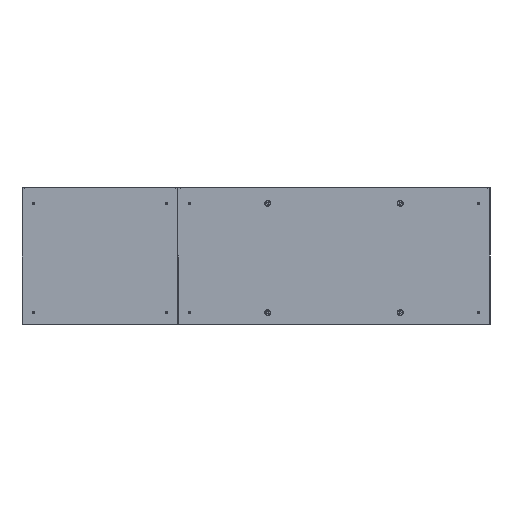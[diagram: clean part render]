
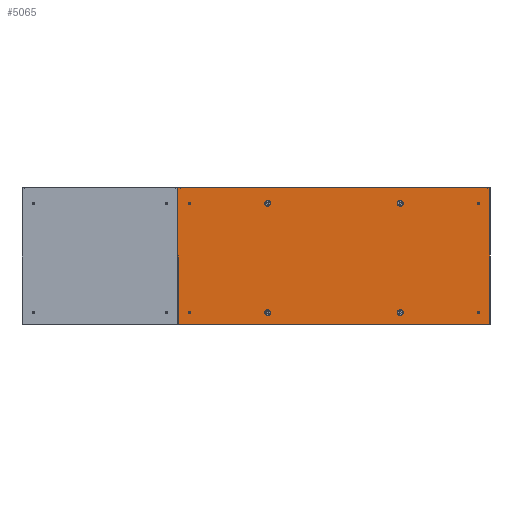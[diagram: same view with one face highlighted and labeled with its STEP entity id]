
A CAD part, front view. The second image highlights one B-rep face of the part: STEP entity #5065.
In plain terms, the highlighted planar face has unit normal (0, -1, 0).
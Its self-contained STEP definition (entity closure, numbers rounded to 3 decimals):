
#31 = CARTESIAN_POINT ( 'NONE',  ( -370., 0., -148. ) ) ;
#64 = EDGE_CURVE ( 'NONE', #15585, #7655, #1497, .T. ) ;
#88 = ORIENTED_EDGE ( 'NONE', *, *, #7454, .F. ) ;
#125 = AXIS2_PLACEMENT_3D ( 'NONE', #11148, #2801, #7666 ) ;
#228 = CIRCLE ( 'NONE', #5568, 3. ) ;
#260 = DIRECTION ( 'NONE',  ( 0., -1., 0. ) ) ;
#295 = DIRECTION ( 'NONE',  ( 0., -1., 0. ) ) ;
#332 = CARTESIAN_POINT ( 'NONE',  ( -370., 0., 138. ) ) ;
#384 = VERTEX_POINT ( 'NONE', #5859 ) ;
#570 = FACE_BOUND ( 'NONE', #3971, .T. ) ;
#678 = VERTEX_POINT ( 'NONE', #1174 ) ;
#724 = FACE_BOUND ( 'NONE', #2051, .T. ) ;
#786 = VERTEX_POINT ( 'NONE', #11100 ) ;
#795 = VERTEX_POINT ( 'NONE', #3775 ) ;
#808 = FACE_BOUND ( 'NONE', #13930, .T. ) ;
#848 = DIRECTION ( 'NONE',  ( 0., 0., -1. ) ) ;
#1174 = CARTESIAN_POINT ( 'NONE',  ( -370., 0., -142. ) ) ;
#1365 = VERTEX_POINT ( 'NONE', #31 ) ;
#1497 = CIRCLE ( 'NONE', #6301, 3. ) ;
#1554 = VECTOR ( 'NONE', #8459, 1000. ) ;
#1751 = CARTESIAN_POINT ( 'NONE',  ( -400., 0., -175. ) ) ;
#1825 = EDGE_CURVE ( 'NONE', #11263, #786, #11051, .T. ) ;
#1891 = DIRECTION ( 'NONE',  ( 0., -1., 0. ) ) ;
#1970 = EDGE_CURVE ( 'NONE', #6293, #9609, #14865, .T. ) ;
#1978 = LINE ( 'NONE', #3464, #13238 ) ;
#1991 = ORIENTED_EDGE ( 'NONE', *, *, #1825, .F. ) ;
#2051 = EDGE_LOOP ( 'NONE', ( #1991, #88 ) ) ;
#2237 = DIRECTION ( 'NONE',  ( 0., 0., -1. ) ) ;
#2388 = CARTESIAN_POINT ( 'NONE',  ( -400., 0., 175. ) ) ;
#2432 = EDGE_CURVE ( 'NONE', #12881, #384, #10828, .T. ) ;
#2567 = AXIS2_PLACEMENT_3D ( 'NONE', #11123, #12318, #5080 ) ;
#2663 = CARTESIAN_POINT ( 'NONE',  ( -400., 0., -175. ) ) ;
#2801 = DIRECTION ( 'NONE',  ( 0., -1., 0. ) ) ;
#2837 = CARTESIAN_POINT ( 'NONE',  ( 370., 0., 135. ) ) ;
#2920 = ORIENTED_EDGE ( 'NONE', *, *, #1970, .F. ) ;
#3073 = DIRECTION ( 'NONE',  ( 0., 0., -1. ) ) ;
#3118 = DIRECTION ( 'NONE',  ( 0., 0., -1. ) ) ;
#3286 = AXIS2_PLACEMENT_3D ( 'NONE', #15430, #14001, #3118 ) ;
#3292 = CARTESIAN_POINT ( 'NONE',  ( -370., 0., -145. ) ) ;
#3464 = CARTESIAN_POINT ( 'NONE',  ( 400., 0., -175. ) ) ;
#3775 = CARTESIAN_POINT ( 'NONE',  ( 400., 0., -175. ) ) ;
#3971 = EDGE_LOOP ( 'NONE', ( #13187, #10002 ) ) ;
#4180 = EDGE_CURVE ( 'NONE', #1365, #678, #228, .T. ) ;
#4220 = PLANE ( 'NONE',  #14596 ) ;
#4511 = CARTESIAN_POINT ( 'NONE',  ( -400., 0., -175. ) ) ;
#4549 = AXIS2_PLACEMENT_3D ( 'NONE', #14633, #260, #8619 ) ;
#4798 = CARTESIAN_POINT ( 'NONE',  ( -370., 0., 135. ) ) ;
#5060 = CIRCLE ( 'NONE', #5320, 3. ) ;
#5065 = ADVANCED_FACE ( 'NONE', ( #570, #724, #808, #9247, #9014 ), #4220, .F. ) ;
#5080 = DIRECTION ( 'NONE',  ( 0., 0., -1. ) ) ;
#5132 = VECTOR ( 'NONE', #13256, 1000. ) ;
#5320 = AXIS2_PLACEMENT_3D ( 'NONE', #8296, #14157, #2237 ) ;
#5568 = AXIS2_PLACEMENT_3D ( 'NONE', #3292, #1891, #11504 ) ;
#5859 = CARTESIAN_POINT ( 'NONE',  ( 400., 0., 175. ) ) ;
#6036 = ORIENTED_EDGE ( 'NONE', *, *, #10822, .F. ) ;
#6042 = ORIENTED_EDGE ( 'NONE', *, *, #4180, .F. ) ;
#6132 = EDGE_LOOP ( 'NONE', ( #6042, #13053 ) ) ;
#6293 = VERTEX_POINT ( 'NONE', #12336 ) ;
#6301 = AXIS2_PLACEMENT_3D ( 'NONE', #4798, #15538, #848 ) ;
#6432 = VECTOR ( 'NONE', #13746, 1000. ) ;
#6437 = ORIENTED_EDGE ( 'NONE', *, *, #13452, .F. ) ;
#6675 = AXIS2_PLACEMENT_3D ( 'NONE', #2837, #295, #3073 ) ;
#6763 = EDGE_CURVE ( 'NONE', #7655, #15585, #10953, .T. ) ;
#6991 = DIRECTION ( 'NONE',  ( 0., 0., -1. ) ) ;
#7244 = ORIENTED_EDGE ( 'NONE', *, *, #2432, .F. ) ;
#7253 = EDGE_CURVE ( 'NONE', #384, #795, #1978, .T. ) ;
#7454 = EDGE_CURVE ( 'NONE', #786, #11263, #15549, .T. ) ;
#7493 = CARTESIAN_POINT ( 'NONE',  ( 370., 0., 132. ) ) ;
#7655 = VERTEX_POINT ( 'NONE', #10386 ) ;
#7666 = DIRECTION ( 'NONE',  ( 0., 0., -1. ) ) ;
#8296 = CARTESIAN_POINT ( 'NONE',  ( -370., 0., -145. ) ) ;
#8327 = EDGE_CURVE ( 'NONE', #795, #13249, #12631, .T. ) ;
#8384 = CARTESIAN_POINT ( 'NONE',  ( 370., 0., -142. ) ) ;
#8459 = DIRECTION ( 'NONE',  ( 1., 0., 0. ) ) ;
#8608 = CARTESIAN_POINT ( 'NONE',  ( -400., 0., 175. ) ) ;
#8619 = DIRECTION ( 'NONE',  ( 0., 0., -1. ) ) ;
#9014 = FACE_OUTER_BOUND ( 'NONE', #14659, .T. ) ;
#9247 = FACE_BOUND ( 'NONE', #6132, .T. ) ;
#9609 = VERTEX_POINT ( 'NONE', #8384 ) ;
#10002 = ORIENTED_EDGE ( 'NONE', *, *, #64, .F. ) ;
#10194 = DIRECTION ( 'NONE',  ( 0., 0., 1. ) ) ;
#10386 = CARTESIAN_POINT ( 'NONE',  ( -370., 0., 132. ) ) ;
#10822 = EDGE_CURVE ( 'NONE', #9609, #6293, #11156, .T. ) ;
#10828 = LINE ( 'NONE', #8608, #1554 ) ;
#10953 = CIRCLE ( 'NONE', #2567, 3. ) ;
#11032 = EDGE_CURVE ( 'NONE', #678, #1365, #5060, .T. ) ;
#11051 = CIRCLE ( 'NONE', #125, 3. ) ;
#11100 = CARTESIAN_POINT ( 'NONE',  ( 370., 0., 138. ) ) ;
#11123 = CARTESIAN_POINT ( 'NONE',  ( -370., 0., 135. ) ) ;
#11148 = CARTESIAN_POINT ( 'NONE',  ( 370., 0., 135. ) ) ;
#11156 = CIRCLE ( 'NONE', #4549, 3. ) ;
#11263 = VERTEX_POINT ( 'NONE', #7493 ) ;
#11504 = DIRECTION ( 'NONE',  ( 0., 0., -1. ) ) ;
#12318 = DIRECTION ( 'NONE',  ( 0., -1., 0. ) ) ;
#12336 = CARTESIAN_POINT ( 'NONE',  ( 370., 0., -148. ) ) ;
#12598 = LINE ( 'NONE', #2663, #5132 ) ;
#12631 = LINE ( 'NONE', #1751, #6432 ) ;
#12648 = DIRECTION ( 'NONE',  ( 0., 1., 0. ) ) ;
#12881 = VERTEX_POINT ( 'NONE', #2388 ) ;
#12956 = CARTESIAN_POINT ( 'NONE',  ( 0., 0., 0. ) ) ;
#13053 = ORIENTED_EDGE ( 'NONE', *, *, #11032, .F. ) ;
#13187 = ORIENTED_EDGE ( 'NONE', *, *, #6763, .F. ) ;
#13238 = VECTOR ( 'NONE', #6991, 1000. ) ;
#13249 = VERTEX_POINT ( 'NONE', #4511 ) ;
#13256 = DIRECTION ( 'NONE',  ( 0., 0., 1. ) ) ;
#13452 = EDGE_CURVE ( 'NONE', #13249, #12881, #12598, .T. ) ;
#13746 = DIRECTION ( 'NONE',  ( -1., 0., 0. ) ) ;
#13930 = EDGE_LOOP ( 'NONE', ( #2920, #6036 ) ) ;
#14001 = DIRECTION ( 'NONE',  ( 0., -1., 0. ) ) ;
#14157 = DIRECTION ( 'NONE',  ( 0., -1., 0. ) ) ;
#14596 = AXIS2_PLACEMENT_3D ( 'NONE', #12956, #12648, #10194 ) ;
#14602 = ORIENTED_EDGE ( 'NONE', *, *, #8327, .F. ) ;
#14633 = CARTESIAN_POINT ( 'NONE',  ( 370., 0., -145. ) ) ;
#14659 = EDGE_LOOP ( 'NONE', ( #15422, #7244, #6437, #14602 ) ) ;
#14865 = CIRCLE ( 'NONE', #3286, 3. ) ;
#15422 = ORIENTED_EDGE ( 'NONE', *, *, #7253, .F. ) ;
#15430 = CARTESIAN_POINT ( 'NONE',  ( 370., 0., -145. ) ) ;
#15538 = DIRECTION ( 'NONE',  ( 0., -1., 0. ) ) ;
#15549 = CIRCLE ( 'NONE', #6675, 3. ) ;
#15585 = VERTEX_POINT ( 'NONE', #332 ) ;
